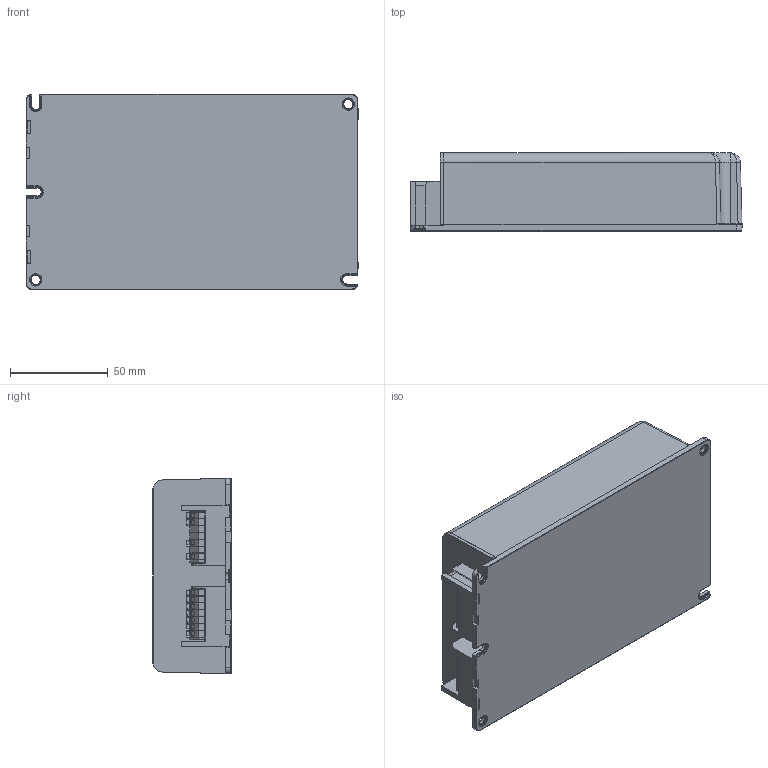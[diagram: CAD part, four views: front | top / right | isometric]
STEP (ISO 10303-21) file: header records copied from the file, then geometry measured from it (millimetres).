
FILE_DESCRIPTION (( 'STEP AP214' ), '1' );
FILE_NAME ('4189181swm000.step', '2020-02-06T05:26:37', ( 'OSRAM' ), ( 'OSRAM' ), 'SwSTEP 2.0', 'SolidWorks 2017', '' );
FILE_SCHEMA (( 'AUTOMOTIVE_DESIGN' ));
Length unit declared in the file: millimetre
Products named in the file (1): 4189181swm000
Bounding box: 170 x 40 x 100 mm (x, y, z)
Volume: 619476.6 mm3; surface area: 57936.5 mm2
Topology: 1 solids, 1 shells, 750 faces, 1860 edges, 1088 vertices
Faces by surface type: plane 540, cylinder 118, torus 36, cone 35, bspline 14, sphere 7
Entity records: 27762 total; most frequent: CARTESIAN_POINT 4896, ORIENTED_EDGE 3698, DIRECTION 3576, EDGE_CURVE 1849, VECTOR 1464, LINE 1464, VERTEX_POINT 1087, AXIS2_PLACEMENT_3D 1056
